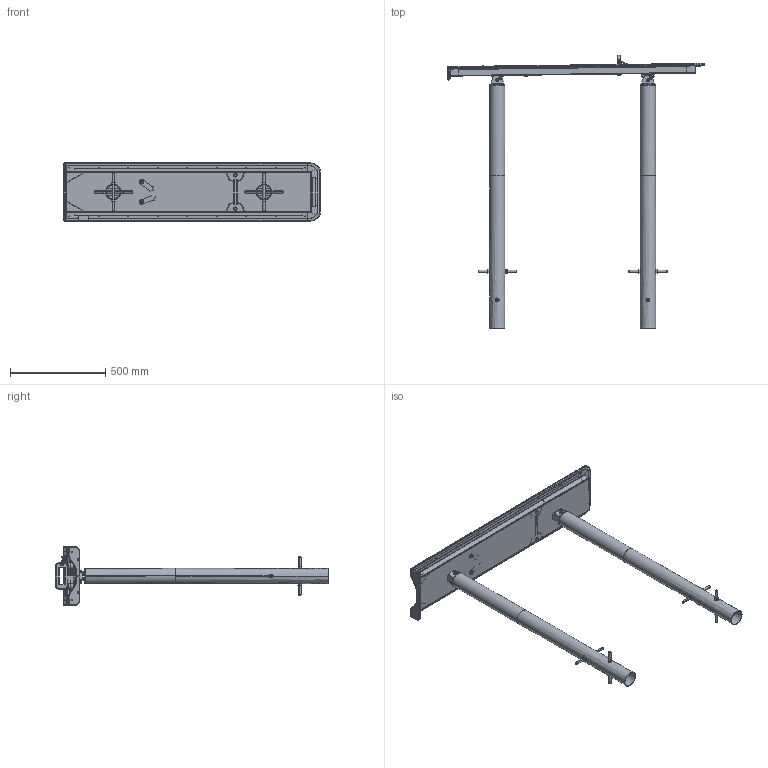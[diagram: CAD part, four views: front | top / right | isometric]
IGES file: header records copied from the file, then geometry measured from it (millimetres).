
Start section: SolidWorks IGES file using analytic representation for surfaces
Global section: file name: C:\Users\user25\Desktop\klient modele\570.203.010.012 - Channel CA.IGS; native system: SolidWorks 2018; preprocessor: SolidWorks 2018; author: user25; date: 210325.121246; units: millimetre
Bounding box: 1348.24 x 1432.09 x 305 mm (x, y, z)
Surface area: 2767653.7 mm2 (no closed solid volume)
Topology: 0 solids, 0 shells, 881 faces, 12143 edges, 12124 vertices
Faces by surface type: bspline 510, revolution 371
